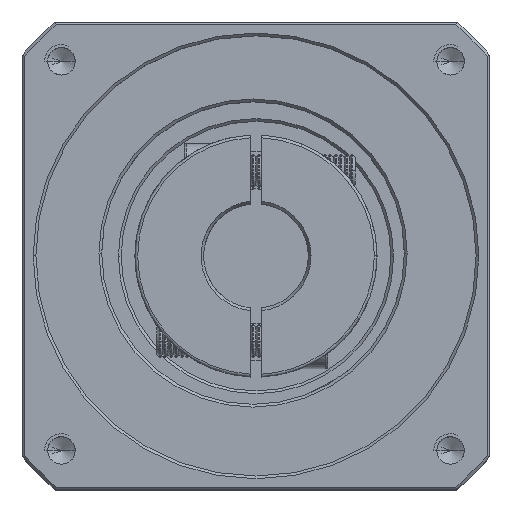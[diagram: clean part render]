
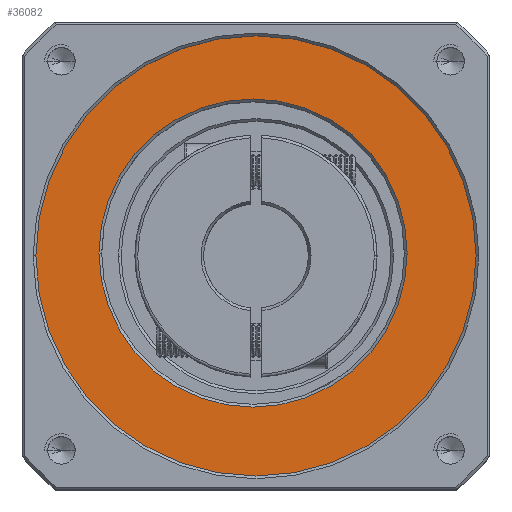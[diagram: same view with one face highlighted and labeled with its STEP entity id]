
A CAD part, top view. The second image highlights one B-rep face of the part: STEP entity #36082.
In plain terms, the highlighted planar face has unit normal (0, 0, 1).
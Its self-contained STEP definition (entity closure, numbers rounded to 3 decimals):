
#4402 = FACE_OUTER_BOUND ( 'NONE', #6587, .T. ) ;
#6587 = EDGE_LOOP ( 'NONE', ( #78114, #48298 ) ) ;
#7432 = DIRECTION ( 'NONE',  ( 0., 0., -1. ) ) ;
#9574 = DIRECTION ( 'NONE',  ( 0., 0., 1. ) ) ;
#10510 = ORIENTED_EDGE ( 'NONE', *, *, #108756, .T. ) ;
#13062 = DIRECTION ( 'NONE',  ( 1., 0., 0. ) ) ;
#15973 = CIRCLE ( 'NONE', #24702, 40. ) ;
#18379 = CARTESIAN_POINT ( 'NONE',  ( -76.66, 32.259, 31.653 ) ) ;
#24702 = AXIS2_PLACEMENT_3D ( 'NONE', #18379, #27734, #88703 ) ;
#27734 = DIRECTION ( 'NONE',  ( 0., 0., 1. ) ) ;
#31303 = CIRCLE ( 'NONE', #68381, 40. ) ;
#33577 = EDGE_CURVE ( 'NONE', #120939, #115235, #85045, .T. ) ;
#36082 = ADVANCED_FACE ( 'NONE', ( #4402, #115086 ), #39215, .T. ) ;
#37671 = ORIENTED_EDGE ( 'NONE', *, *, #33577, .T. ) ;
#39215 = PLANE ( 'NONE',  #111679 ) ;
#43608 = DIRECTION ( 'NONE',  ( 0., 0., 1. ) ) ;
#48298 = ORIENTED_EDGE ( 'NONE', *, *, #112273, .T. ) ;
#51482 = CARTESIAN_POINT ( 'NONE',  ( -116.66, 32.259, 31.653 ) ) ;
#51937 = DIRECTION ( 'NONE',  ( 1., 0., 0. ) ) ;
#62293 = AXIS2_PLACEMENT_3D ( 'NONE', #71373, #100935, #51937 ) ;
#68381 = AXIS2_PLACEMENT_3D ( 'NONE', #82949, #43608, #13062 ) ;
#71373 = CARTESIAN_POINT ( 'NONE',  ( -77.202, 32.793, 31.653 ) ) ;
#71642 = CARTESIAN_POINT ( 'NONE',  ( -105.202, 32.793, 31.653 ) ) ;
#78114 = ORIENTED_EDGE ( 'NONE', *, *, #91599, .T. ) ;
#80925 = CARTESIAN_POINT ( 'NONE',  ( -36.66, 32.259, 31.653 ) ) ;
#82949 = CARTESIAN_POINT ( 'NONE',  ( -76.66, 32.259, 31.653 ) ) ;
#82953 = EDGE_LOOP ( 'NONE', ( #37671, #10510 ) ) ;
#85045 = CIRCLE ( 'NONE', #62293, 28. ) ;
#88703 = DIRECTION ( 'NONE',  ( 1., 0., 0. ) ) ;
#91599 = EDGE_CURVE ( 'NONE', #109896, #110893, #31303, .T. ) ;
#100935 = DIRECTION ( 'NONE',  ( 0., 0., -1. ) ) ;
#107254 = DIRECTION ( 'NONE',  ( 1., 0., 0. ) ) ;
#108756 = EDGE_CURVE ( 'NONE', #115235, #120939, #124405, .T. ) ;
#109896 = VERTEX_POINT ( 'NONE', #80925 ) ;
#110893 = VERTEX_POINT ( 'NONE', #51482 ) ;
#111679 = AXIS2_PLACEMENT_3D ( 'NONE', #122211, #9574, #112015 ) ;
#112015 = DIRECTION ( 'NONE',  ( 1., 0., 0. ) ) ;
#112273 = EDGE_CURVE ( 'NONE', #110893, #109896, #15973, .T. ) ;
#115086 = FACE_BOUND ( 'NONE', #82953, .T. ) ;
#115235 = VERTEX_POINT ( 'NONE', #71642 ) ;
#116845 = CARTESIAN_POINT ( 'NONE',  ( -49.202, 32.793, 31.653 ) ) ;
#118314 = CARTESIAN_POINT ( 'NONE',  ( -77.202, 32.793, 31.653 ) ) ;
#120939 = VERTEX_POINT ( 'NONE', #116845 ) ;
#122211 = CARTESIAN_POINT ( 'NONE',  ( -76.66, 32.259, 31.653 ) ) ;
#124405 = CIRCLE ( 'NONE', #129275, 28. ) ;
#129275 = AXIS2_PLACEMENT_3D ( 'NONE', #118314, #7432, #107254 ) ;
